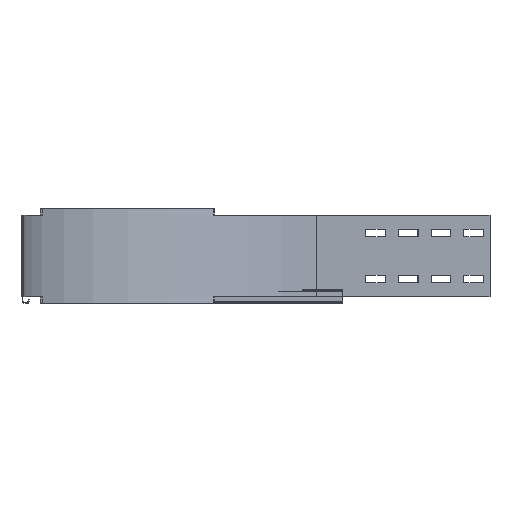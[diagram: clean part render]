
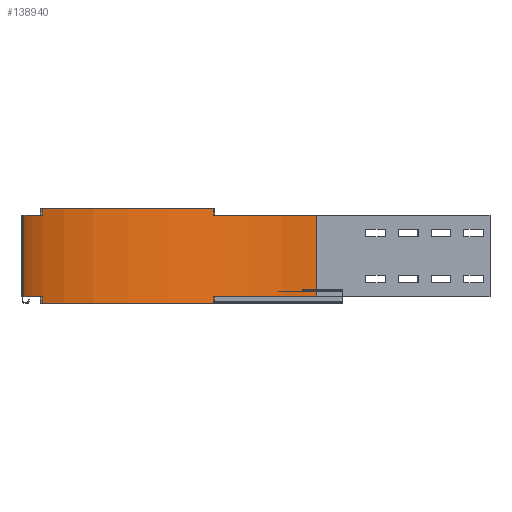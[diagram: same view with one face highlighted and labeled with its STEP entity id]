
A CAD part, left-side view. The second image highlights one B-rep face of the part: STEP entity #138940.
In plain terms, the highlighted cylindrical face has radius 447 mm (diameter 894 mm), a partial arc.
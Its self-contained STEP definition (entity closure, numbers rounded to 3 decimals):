
#116370=CARTESIAN_POINT('',(418.993,-294.263,0.));
#116380=VERTEX_POINT('',#116370);
#116410=CARTESIAN_POINT('',(0.,-450.,0.));
#116420=DIRECTION('',(0.,0.,1.));
#116430=DIRECTION('',(0.937,0.348,0.));
#116440=AXIS2_PLACEMENT_3D('',#116410,#116420,#116430);
#116450=CIRCLE('',#116440,447.);
#116460=CARTESIAN_POINT('',(155.737,-31.007,0.));
#116470=VERTEX_POINT('',#116460);
#116480=EDGE_CURVE('',#116380,#116470,#116450,.T.);
#118450=CARTESIAN_POINT('',(447.,-450.,-10.));
#118460=VERTEX_POINT('',#118450);
#118510=CARTESIAN_POINT('',(0.,-450.,-10.));
#118520=DIRECTION('',(0.,0.,-1.));
#118530=DIRECTION('',(0.937,0.348,0.));
#118540=AXIS2_PLACEMENT_3D('',#118510,#118520,#118530);
#118550=CIRCLE('',#118540,447.);
#118560=CARTESIAN_POINT('',(418.993,-294.263,-10.));
#118570=VERTEX_POINT('',#118560);
#118580=EDGE_CURVE('',#118570,#118460,#118550,.T.);
#118990=CARTESIAN_POINT('',(0.,-450.,-145.));
#119000=DIRECTION('',(0.,0.,1.));
#119010=DIRECTION('',(0.937,0.348,0.));
#119020=AXIS2_PLACEMENT_3D('',#118990,#119000,#119010);
#119030=CIRCLE('',#119020,447.);
#119040=CARTESIAN_POINT('',(418.993,-294.263,-145.));
#119050=VERTEX_POINT('',#119040);
#119060=CARTESIAN_POINT('',(155.737,-31.007,-145.));
#119070=VERTEX_POINT('',#119060);
#119080=EDGE_CURVE('',#119050,#119070,#119030,.T.);
#119410=CARTESIAN_POINT('',(0.,-450.,-135.));
#119420=DIRECTION('',(0.,0.,1.));
#119430=DIRECTION('',(0.348,0.937,0.));
#119440=AXIS2_PLACEMENT_3D('',#119410,#119420,#119430);
#119450=CIRCLE('',#119440,447.);
#119460=CARTESIAN_POINT('',(155.737,-31.007,-135.));
#119470=VERTEX_POINT('',#119460);
#119480=CARTESIAN_POINT('',(0.,-3.,-135.));
#119490=VERTEX_POINT('',#119480);
#119500=EDGE_CURVE('',#119470,#119490,#119450,.T.);
#128760=CARTESIAN_POINT('',(0.,-3.,0.));
#128770=DIRECTION('',(0.,0.,-1.));
#128780=VECTOR('',#128770,1.);
#128790=LINE('',#128760,#128780);
#128800=CARTESIAN_POINT('',(0.,-3.,-10.));
#128810=VERTEX_POINT('',#128800);
#128820=EDGE_CURVE('',#128810,#119490,#128790,.T.);
#131750=CARTESIAN_POINT('',(447.,-450.,-135.));
#131760=VERTEX_POINT('',#131750);
#131790=CARTESIAN_POINT('',(447.,-450.,0.));
#131800=DIRECTION('',(0.,0.,1.));
#131810=VECTOR('',#131800,1.);
#131820=LINE('',#131790,#131810);
#131830=EDGE_CURVE('',#131760,#118460,#131820,.T.);
#137000=CARTESIAN_POINT('',(418.993,-294.263,0.));
#137010=DIRECTION('',(0.,0.,-1.));
#137020=VECTOR('',#137010,1.);
#137030=LINE('',#137000,#137020);
#137040=EDGE_CURVE('',#116380,#118570,#137030,.T.);
#137170=CARTESIAN_POINT('',(155.737,-31.007,-145.));
#137180=DIRECTION('',(0.,0.,1.));
#137190=VECTOR('',#137180,1.);
#137200=LINE('',#137170,#137190);
#137210=EDGE_CURVE('',#119070,#119470,#137200,.T.);
#137350=CARTESIAN_POINT('',(155.737,-31.007,-10.));
#137360=VERTEX_POINT('',#137350);
#137410=CARTESIAN_POINT('',(155.737,-31.007,-10.));
#137420=DIRECTION('',(0.,0.,1.));
#137430=VECTOR('',#137420,1.);
#137440=LINE('',#137410,#137430);
#137450=EDGE_CURVE('',#137360,#116470,#137440,.T.);
#137610=CARTESIAN_POINT('',(418.993,-294.263,-135.));
#137620=VERTEX_POINT('',#137610);
#137650=CARTESIAN_POINT('',(0.,-450.,-135.));
#137660=DIRECTION('',(0.,0.,1.));
#137670=DIRECTION('',(1.,0.,0.));
#137680=AXIS2_PLACEMENT_3D('',#137650,#137660,#137670);
#137690=CIRCLE('',#137680,447.);
#137700=EDGE_CURVE('',#131760,#137620,#137690,.T.);
#138640=CARTESIAN_POINT('',(0.,-450.,-10.));
#138650=DIRECTION('',(0.,0.,1.));
#138660=DIRECTION('',(1.,0.,0.));
#138670=AXIS2_PLACEMENT_3D('',#138640,#138650,#138660);
#138680=CYLINDRICAL_SURFACE('',#138670,447.);
#138690=ORIENTED_EDGE('',*,*,#119500,.F.);
#138700=ORIENTED_EDGE('',*,*,#128820,.T.);
#138710=CARTESIAN_POINT('',(0.,-450.,-10.));
#138720=DIRECTION('',(0.,0.,-1.));
#138730=DIRECTION('',(0.,1.,0.));
#138740=AXIS2_PLACEMENT_3D('',#138710,#138720,#138730);
#138750=CIRCLE('',#138740,447.);
#138760=EDGE_CURVE('',#128810,#137360,#138750,.T.);
#138770=ORIENTED_EDGE('',*,*,#138760,.F.);
#138780=ORIENTED_EDGE('',*,*,#137450,.F.);
#138790=ORIENTED_EDGE('',*,*,#116480,.T.);
#138800=ORIENTED_EDGE('',*,*,#137040,.F.);
#138810=ORIENTED_EDGE('',*,*,#118580,.F.);
#138820=ORIENTED_EDGE('',*,*,#131830,.T.);
#138830=ORIENTED_EDGE('',*,*,#137700,.F.);
#138840=CARTESIAN_POINT('',(418.993,-294.263,-135.));
#138850=DIRECTION('',(0.,0.,-1.));
#138860=VECTOR('',#138850,1.);
#138870=LINE('',#138840,#138860);
#138880=EDGE_CURVE('',#137620,#119050,#138870,.T.);
#138890=ORIENTED_EDGE('',*,*,#138880,.F.);
#138900=ORIENTED_EDGE('',*,*,#119080,.F.);
#138910=ORIENTED_EDGE('',*,*,#137210,.F.);
#138920=EDGE_LOOP('',(#138910,#138900,#138890,#138830,#138820,#138810,
#138800,#138790,#138780,#138770,#138700,#138690));
#138930=FACE_OUTER_BOUND('',#138920,.T.);
#138940=ADVANCED_FACE('',(#138930),#138680,.F.);
